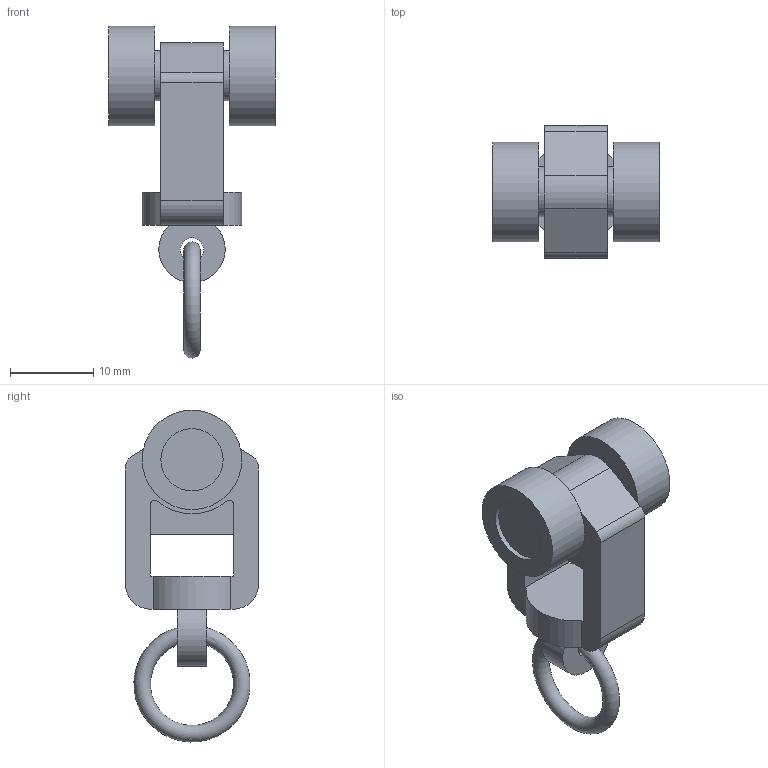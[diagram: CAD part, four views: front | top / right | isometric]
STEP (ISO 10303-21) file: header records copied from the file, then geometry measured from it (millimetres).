
FILE_DESCRIPTION(('STEP AP214'),'1');
FILE_NAME('CE33.stp','2021-12-24T11:00:19',(' '),(' '),'Spatial InterOp 3D',' ',' ');
FILE_SCHEMA(('AUTOMOTIVE_DESIGN { 1 0 10303 214 1 1 1 1 }'));
Length unit declared in the file: millimetre
Products named in the file (1): CE33
Bounding box: 20 x 16 x 40 mm (x, y, z)
Volume: 3460.3 mm3; surface area: 2591.1 mm2
Topology: 1 solids, 1 shells, 43 faces, 113 edges, 75 vertices
Faces by surface type: plane 21, cylinder 21, torus 1
Full cylindrical faces by diameter (mm): 2.8 x1, 6 x2, 7.5 x2, 12 x2
Entity records: 1654 total; most frequent: CARTESIAN_POINT 234, DIRECTION 228, ORIENTED_EDGE 204, EDGE_CURVE 102, AXIS2_PLACEMENT_3D 86, VERTEX_POINT 72, EDGE_LOOP 60, LINE 56
